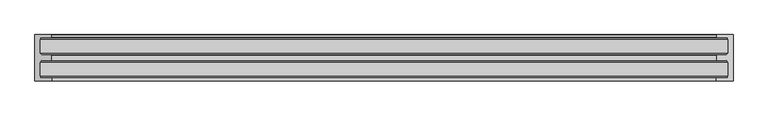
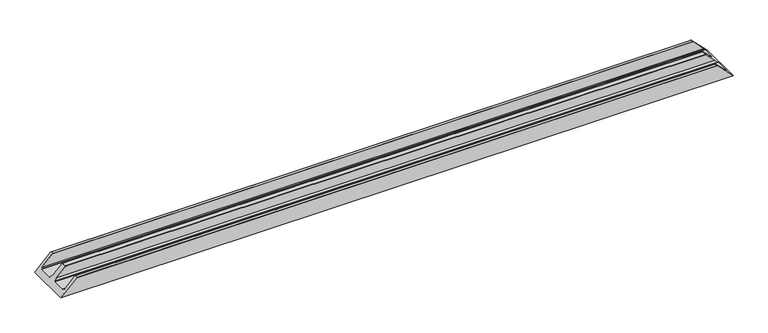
"""IFC4 building model written with IfcOpenShell, lengths in millimetres: proxy geometry, Weiku - Montante - Caixilho duplo 02.3.02.409 : Weiku - Montante - Caixilho duplo 02.3.02.409."""

from ifc_helpers import new_model, si_unit, frame, origin, place, context, project, spatial, ellipse_curve, source, transform, mapped, element, save
from ifc_brep_helpers import plane_surface, cylinder_surface, advanced_brep


def generic_models_d6260649(model_context):
    return source(origin(), model_context, "Body", "AdvancedBrep", [
        advanced_brep(
        [(-1160.0, -9.8, 18.2), (1160.0, -9.8, 18.2), (1122.3, -9.8, 55.9), (-1122.3, -9.8, 55.9), (-1162.5000079, -63.85, 15.6999921), (1162.5000079, -63.85, 15.6999921), (1162.5000079, -15.05, 15.6999921), (-1162.5000079, -15.05, 15.6999921), (-1122.3000055, -69.1, 55.8999945), (1122.3000055, -69.1, 55.8999945), (1154.3700642, -69.1, 23.8299358), (-1154.3700642, -69.1, 23.8299358), (-1121.8000055, -86.65, 56.3999945), (1121.8000055, -86.65, 56.3999945), (1121.8000055, -69.6, 56.3999945), (-1121.8000055, -69.6, 56.3999945), (-1154.4236827, -87.15, 23.7763173), (1154.4236827, -87.15, 23.7763173), (1122.3000055, -87.15, 55.8999945), (-1122.3000055, -87.15, 55.8999945), (-1178.2, -156.2000166, 0.0), (-1178.2, 0.0, 0.0), (1178.2, 0.0, 0.0), (1178.2, -156.2000166, 0.0), (-1122.3, 0.0, 55.9), (1122.3, 0.0, 55.9), (-1121.8, -9.3, 56.4), (1121.8, -9.3, 56.4), (1121.8, -0.5, 56.4), (-1121.8, -0.5, 56.4), (-1122.3, -156.2000166, 55.9), (-1121.8, -155.7000166, 56.4), (-1121.8, -146.9000166, 56.4), (-1122.3, -146.4000166, 55.9), (-1160.0, -146.4000166, 18.2), (-1160.0, -141.1500166, 18.2), (-1162.5000079, -141.1500166, 15.6999921), (-1162.5000079, -92.3500166, 15.6999921), (-1160.0000178, -92.3500166, 18.1999822), (-1160.0, -63.85, 18.2), (-1160.0, -15.05, 18.2), (1160.0, -15.05, 18.2), (1160.0, -63.85, 18.2), (1160.0000178, -92.3500166, 18.1999822), (1162.5000079, -92.3500166, 15.6999921), (1162.5000079, -141.1500166, 15.6999921), (1160.0, -141.1500166, 18.2), (1160.0, -146.4000166, 18.2), (1122.3, -146.4000166, 55.9), (1121.8, -146.9000166, 56.4), (1121.8, -155.7000166, 56.4), (1122.3, -156.2000166, 55.9)],
        [
            (0, 1),
            (1, 2),
            (2, 3),
            (3, 0),
            (4, 5),
            (5, 6),
            (6, 7),
            (7, 4),
            (8, 9),
            (9, 10),
            (10, 11),
            (11, 8),
            (12, 13),
            (13, 14),
            (14, 15),
            (15, 12),
            (16, 17),
            (17, 18),
            (18, 19),
            (19, 16),
            (20, 21),
            (21, 22),
            (22, 23),
            (23, 20),
            (21, 24),
            (24, 25),
            (25, 22),
            (26, 27),
            (27, 28),
            (28, 29),
            (29, 26),
            (3, 26, ellipse_curve(frame((-1122.3, -9.3, 55.9), z_axis=(-0.7071067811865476, 0.0, 0.7071067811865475), x_axis=(-0.7071067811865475, 0.0, -0.7071067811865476)), 0.7071068, 0.5)),
            (29, 24, ellipse_curve(frame((-1122.3, -0.5, 55.9), z_axis=(-0.7071067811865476, 0.0, 0.7071067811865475), x_axis=(-0.7071067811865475, 0.0, -0.7071067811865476)), 0.7071068, 0.5)),
            (20, 30),
            (30, 31, ellipse_curve(frame((-1122.3, -155.7000166, 55.9), z_axis=(-0.7071067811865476, 0.0, 0.7071067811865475), x_axis=(-0.7071067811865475, 0.0, -0.7071067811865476)), 0.7071068, 0.5)),
            (31, 32),
            (32, 33, ellipse_curve(frame((-1122.3, -146.9000166, 55.9), z_axis=(-0.7071067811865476, 0.0, 0.7071067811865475), x_axis=(-0.7071067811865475, 0.0, -0.7071067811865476)), 0.7071068, 0.5)),
            (33, 34),
            (34, 35),
            (35, 36),
            (36, 37),
            (37, 38),
            (38, 16),
            (19, 12, ellipse_curve(frame((-1122.3000055, -86.65, 55.8999945), z_axis=(-0.7071067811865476, 0.0, 0.7071067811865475), x_axis=(-0.7071067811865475, 0.0, -0.7071067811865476)), 0.7071068, 0.5)),
            (15, 8, ellipse_curve(frame((-1122.3000055, -69.6, 55.8999945), z_axis=(-0.7071067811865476, 0.0, 0.7071067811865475), x_axis=(-0.7071067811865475, 0.0, -0.7071067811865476)), 0.7071068, 0.5)),
            (11, 39),
            (39, 4),
            (7, 40),
            (40, 0),
            (1, 41),
            (41, 6),
            (5, 42),
            (42, 10),
            (9, 14, ellipse_curve(frame((1122.3000055, -69.6, 55.8999945), z_axis=(0.7071067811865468, 0.0, 0.7071067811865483), x_axis=(-0.7071067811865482, 0.0, 0.7071067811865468)), 0.7071068, 0.5)),
            (13, 18, ellipse_curve(frame((1122.3000055, -86.65, 55.8999945), z_axis=(0.7071067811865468, 0.0, 0.7071067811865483), x_axis=(-0.7071067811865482, 0.0, 0.7071067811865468)), 0.7071068, 0.5)),
            (17, 43),
            (43, 44),
            (44, 45),
            (45, 46),
            (46, 47),
            (47, 48),
            (48, 49, ellipse_curve(frame((1122.3, -146.9000166, 55.9), z_axis=(0.7071067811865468, 0.0, 0.7071067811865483), x_axis=(-0.7071067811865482, 0.0, 0.7071067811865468)), 0.7071068, 0.5)),
            (49, 50),
            (50, 51, ellipse_curve(frame((1122.3, -155.7000166, 55.9), z_axis=(0.7071067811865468, 0.0, 0.7071067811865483), x_axis=(-0.7071067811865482, 0.0, 0.7071067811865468)), 0.7071068, 0.5)),
            (51, 23),
            (25, 28, ellipse_curve(frame((1122.3, -0.5, 55.9), z_axis=(0.7071067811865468, 0.0, 0.7071067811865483), x_axis=(-0.7071067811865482, 0.0, 0.7071067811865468)), 0.7071068, 0.5)),
            (27, 2, ellipse_curve(frame((1122.3, -9.3, 55.9), z_axis=(0.7071067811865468, 0.0, 0.7071067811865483), x_axis=(-0.7071067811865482, 0.0, 0.7071067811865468)), 0.7071068, 0.5)),
            (40, 41),
            (39, 42),
            (38, 43),
            (37, 44),
            (36, 45),
            (35, 46),
            (34, 47),
            (33, 48),
            (31, 50),
            (49, 32),
            (30, 51),
        ],
        [
            plane_surface(frame((-1178.2, -9.8, 55.9), z_axis=(0.0, -1.0, 0.0), x_axis=(1.0, 0.0, 0.0))),
            plane_surface(frame((-1178.2, -15.05, 15.6999921), z_axis=(0.0, 0.0, 1.0), x_axis=(1.0, 0.0, 0.0))),
            plane_surface(frame((-1178.2, -69.1, 23.8299358), z_axis=(0.0, 1.0, 0.0), x_axis=(1.0, 0.0, 0.0))),
            plane_surface(frame((-1178.2, -69.6, 56.3999945), z_axis=(0.0, 0.0, 1.0), x_axis=(1.0, 0.0, 0.0))),
            plane_surface(frame((-1178.2, -87.15, 55.8999945), z_axis=(0.0, -1.0, 0.0), x_axis=(1.0, 0.0, 0.0))),
            plane_surface(frame((-1178.2, -156.2000166, 0.0), z_axis=(0.0, 0.0, -1.0), x_axis=(1.0, 0.0, 0.0))),
            plane_surface(frame((-1178.2, 0.0, 0.0), z_axis=(0.0, 1.0, 0.0), x_axis=(1.0, 0.0, 0.0))),
            plane_surface(frame((-1178.2, -0.5, 56.4), z_axis=(0.0, 0.0, 1.0), x_axis=(1.0, 0.0, 0.0))),
            plane_surface(frame((-1178.2, 0.0, 0.0), z_axis=(-0.7071067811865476, 0.0, 0.7071067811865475), x_axis=(0.0, -1.0, 0.0))),
            plane_surface(frame((1118.2, 0.0, 60.0), z_axis=(0.7071067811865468, 0.0, 0.7071067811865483), x_axis=(0.0, -1.0, 0.0))),
            plane_surface(frame((-1178.2, -9.8, 18.2), z_axis=(0.0, 0.0, 1.0), x_axis=(1.0, 0.0, 0.0))),
            plane_surface(frame((-1178.2, -15.05, 18.2), z_axis=(0.0, -1.0, 0.0), x_axis=(1.0, 0.0, 0.0))),
            plane_surface(frame((-1178.2, -63.85, 15.6999921), z_axis=(0.0, 1.0, 0.0), x_axis=(1.0, 0.0, 0.0))),
            plane_surface(frame((-1178.2, -63.85, 18.2), z_axis=(0.0, 0.7313537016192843, 0.6819983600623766), x_axis=(1.0, 0.0, 0.0))),
            cylinder_surface(frame((-1178.2, -86.65, 55.8999945), z_axis=(-1.0, 0.0, 0.0), x_axis=(0.0, -1.0, 0.0)), 0.5),
            cylinder_surface(frame((-1178.2, -0.5, 55.9), z_axis=(-1.0, 0.0, 0.0), x_axis=(0.0, -1.0, 0.0)), 0.5),
            plane_surface(frame((-1178.2, -87.15, 23.7763173), z_axis=(0.0, -0.7313537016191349, 0.6819983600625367), x_axis=(1.0, 0.0, 0.0))),
            plane_surface(frame((-1178.2, -92.3500166, 18.1999822), z_axis=(0.0, -1.0, 0.0), x_axis=(1.0, 0.0, 0.0))),
            plane_surface(frame((-1178.2, -92.3500166, 15.6999921), z_axis=(0.0, 0.0, 1.0), x_axis=(1.0, 0.0, 0.0))),
            plane_surface(frame((-1178.2, -141.1500166, 15.6999921), z_axis=(0.0, 1.0, 0.0), x_axis=(1.0, 0.0, 0.0))),
            plane_surface(frame((-1178.2, -141.1500166, 18.2), z_axis=(0.0, 0.0, 1.0), x_axis=(1.0, 0.0, 0.0))),
            plane_surface(frame((-1178.2, -146.4000166, 18.2), z_axis=(0.0, 1.0, 0.0), x_axis=(1.0, 0.0, 0.0))),
            plane_surface(frame((-1178.2, -146.9000166, 56.4), z_axis=(0.0, 0.0, 1.0), x_axis=(1.0, 0.0, 0.0))),
            cylinder_surface(frame((-1178.2, -155.7000166, 55.9), z_axis=(-1.0, 0.0, 0.0), x_axis=(0.0, 1.0, 0.0)), 0.5),
            plane_surface(frame((-1178.2, -156.2000166, 55.9), z_axis=(0.0, -1.0, 0.0), x_axis=(1.0, 0.0, 0.0))),
            cylinder_surface(frame((-1178.2, -9.3, 55.9), z_axis=(-1.0, 0.0, 0.0), x_axis=(0.0, -1.0, 0.0)), 0.5),
            cylinder_surface(frame((-1178.2, -69.6, 55.8999945), z_axis=(-1.0, 0.0, 0.0), x_axis=(0.0, -1.0, 0.0)), 0.5),
            cylinder_surface(frame((-1178.2, -146.9000166, 55.9), z_axis=(-1.0, 0.0, 0.0), x_axis=(0.0, -1.0, 0.0)), 0.5),
        ],
        [
            (0, [[1, 2, 3, 4]]),
            (1, [[5, 6, 7, 8]]),
            (2, [[9, 10, 11, 12]]),
            (3, [[13, 14, 15, 16]]),
            (4, [[17, 18, 19, 20]]),
            (5, [[21, 22, 23, 24]]),
            (6, [[25, 26, 27, -22]]),
            (7, [[28, 29, 30, 31]]),
            (8, [[32, -31, 33, -25, -21, 34, 35, 36, 37, 38, 39, 40, 41, 42, 43, -20, 44, -16, 45, -12, 46, 47, -8, 48, 49, -4]]),
            (9, [[50, 51, -6, 52, 53, -10, 54, -14, 55, -18, 56, 57, 58, 59, 60, 61, 62, 63, 64, 65, -23, -27, 66, -29, 67, -2]]),
            (10, [[68, -50, -1, -49]]),
            (11, [[-7, -51, -68, -48]]),
            (12, [[69, -52, -5, -47]]),
            (13, [[-11, -53, -69, -46]]),
            (14, [[-19, -55, -13, -44]]),
            (15, [[-30, -66, -26, -33]]),
            (16, [[70, -56, -17, -43]]),
            (17, [[71, -57, -70, -42]]),
            (18, [[72, -58, -71, -41]]),
            (19, [[73, -59, -72, -40]]),
            (20, [[74, -60, -73, -39]]),
            (21, [[75, -61, -74, -38]]),
            (22, [[76, -63, 77, -36]]),
            (23, [[78, -64, -76, -35]]),
            (24, [[-65, -78, -34, -24]]),
            (25, [[-3, -67, -28, -32]]),
            (26, [[-15, -54, -9, -45]]),
            (27, [[-77, -62, -75, -37]]),
        ],
    ),
    ])


if __name__ == "__main__":
    model = new_model("IFC4")
    model_context = context("Model", 3, world=origin())
    ifc_project = project(units=[si_unit("LENGTHUNIT", "METRE", prefix="MILLI")], contexts=[model_context])
    site = spatial("IfcSite", under=ifc_project)
    building = spatial("IfcBuilding", under=site)
    placement = place(None, origin())
    generic_models_shape = generic_models_d6260649(model_context)
    element("IfcBuildingElementProxy", 1, Name="Weiku - Montante - Caixilho duplo 02.3.02.409 : Weiku - Montante - Caixilho duplo 02.3.02.409", ObjectType="Weiku - Montante - Caixilho duplo 02.3.02.409 : Weiku - Montante - Caixilho duplo 02.3.02.409", at=placement, inside=building, context=model_context, shape_type="MappedRepresentation", body=[
        mapped(generic_models_shape, transform((0.0, 0.0, 0.0), x_axis=(1.0, 0.0, 0.0), y_axis=(0.0, 1.0, 0.0), z_axis=(0.0, 0.0, 1.0))),
    ])
    save(model, "model.ifc")
